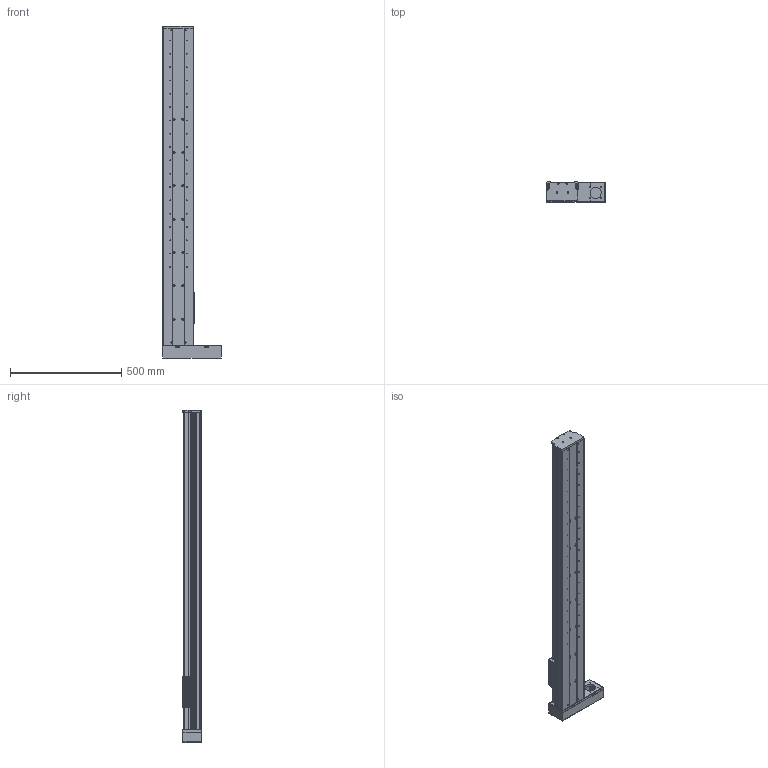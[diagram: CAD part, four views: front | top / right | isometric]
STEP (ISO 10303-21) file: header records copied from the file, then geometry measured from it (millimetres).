
FILE_DESCRIPTION (( 'STEP AP203' ), '1' );
FILE_NAME ('CF140衵殏1200俴最.STEP', '2020-06-13T01:30:49', ( 'Micorosoft' ), ( 'Micorosoft' ), 'SwSTEP 2.0', 'SolidWorks 2016', '' );
FILE_SCHEMA (( 'CONFIG_CONTROL_DESIGN' ));
Length unit declared in the file: millimetre
Products named in the file (12): 菁釱; CF140裔啣; 15賑輸; CF140萇儂啣; 15絳寢; CF120B-20佪裝; CF140蹟譫釱; 140B酘殏殏萇儂啣; CF140賑雄啣; 奻狟殏肮祭謫欶; CF140盓傅釱; CF140衵殏1200俴最
Assembly tree (15 placements, depth 2):
  CF140衵殏1200俴最
    菁釱
    15賑輸  x4
    15絳寢  x2
    CF140蹟譫釱
    CF140賑雄啣
    CF140盓傅釱
    CF140裔啣
    CF140萇儂啣
    CF120B-20佪裝
    140B酘殏殏萇儂啣
    奻狟殏肮祭謫欶
Bounding box: 262 x 90 x 1495 mm (x, y, z)
Volume: 5976324 mm3; surface area: 2289087.8 mm2
Topology: 15 solids, 15 shells, 1301 faces, 3569 edges, 2308 vertices
Faces by surface type: cylinder 741, plane 469, cone 91
Entity records: 39046 total; most frequent: CARTESIAN_POINT 7570, DIRECTION 6523, ORIENTED_EDGE 6146, EDGE_CURVE 3073, AXIS2_PLACEMENT_3D 2445, VERTEX_POINT 2036, VECTOR 1633, LINE 1633
